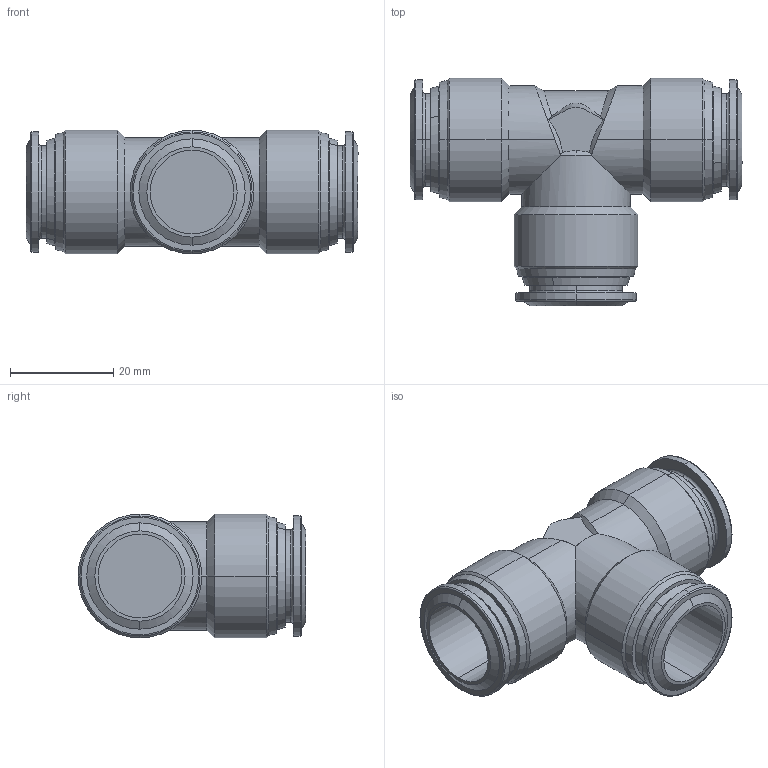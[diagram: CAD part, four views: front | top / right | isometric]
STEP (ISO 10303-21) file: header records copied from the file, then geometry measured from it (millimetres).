
FILE_DESCRIPTION (( 'STEP AP214' ), '1' );
FILE_NAME ('5723000010A.STEP', '2022-12-12T14:39:00', ( '' ), ( '' ), 'SwSTEP 2.0', 'SolidWorks 2020', '' );
FILE_SCHEMA (( 'AUTOMOTIVE_DESIGN' ));
Length unit declared in the file: millimetre
Products named in the file (1): 5723000010A
Bounding box: 64.4 x 44.2 x 24 mm (x, y, z)
Volume: 19345.1 mm3; surface area: 11519.5 mm2
Topology: 1 solids, 1 shells, 116 faces, 253 edges, 154 vertices
Faces by surface type: cone 41, cylinder 31, plane 28, torus 12, bspline 4
Entity records: 3821 total; most frequent: CARTESIAN_POINT 1271, DIRECTION 551, ORIENTED_EDGE 506, EDGE_CURVE 253, AXIS2_PLACEMENT_3D 238, VERTEX_POINT 154, EDGE_LOOP 131, CIRCLE 125
